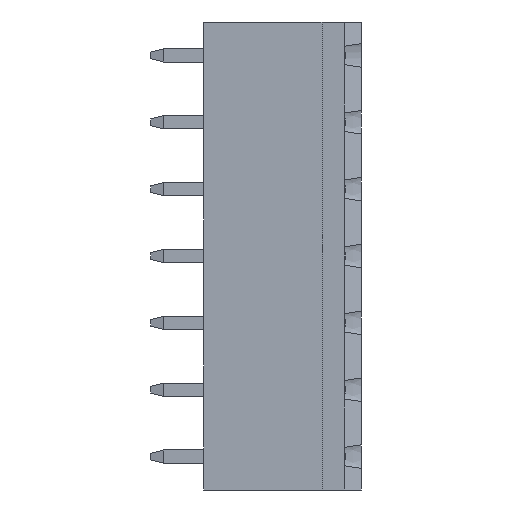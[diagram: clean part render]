
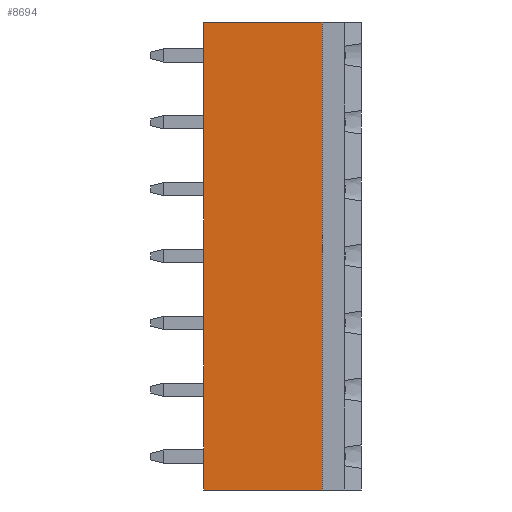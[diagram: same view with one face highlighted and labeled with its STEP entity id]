
A CAD part, left-side view. The second image highlights one B-rep face of the part: STEP entity #8694.
In plain terms, the highlighted planar face has unit normal (-1, 0, 0).
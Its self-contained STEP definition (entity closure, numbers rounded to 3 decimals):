
#216 = VECTOR ( 'NONE', #12035, 1000. ) ;
#615 = DIRECTION ( 'NONE',  ( -1., 0., 0. ) ) ;
#2339 = EDGE_LOOP ( 'NONE', ( #11657, #9553, #17086, #2426 ) ) ;
#2426 = ORIENTED_EDGE ( 'NONE', *, *, #14144, .F. ) ;
#3554 = EDGE_CURVE ( 'NONE', #7549, #17343, #4092, .T. ) ;
#4092 = LINE ( 'NONE', #13574, #17226 ) ;
#6617 = DIRECTION ( 'NONE',  ( 0., 0., -1. ) ) ;
#7475 = PLANE ( 'NONE',  #9626 ) ;
#7490 = CARTESIAN_POINT ( 'NONE',  ( -3.9, 12., 35.56 ) ) ;
#7549 = VERTEX_POINT ( 'NONE', #7490 ) ;
#7626 = VECTOR ( 'NONE', #6617, 1000. ) ;
#7782 = CARTESIAN_POINT ( 'NONE',  ( -3.9, 3., 35.56 ) ) ;
#7785 = LINE ( 'NONE', #11942, #13773 ) ;
#8416 = DIRECTION ( 'NONE',  ( 0., -1., 0. ) ) ;
#8694 = ADVANCED_FACE ( 'NONE', ( #10089 ), #7475, .T. ) ;
#9412 = CARTESIAN_POINT ( 'NONE',  ( -3.9, 3., 35.56 ) ) ;
#9553 = ORIENTED_EDGE ( 'NONE', *, *, #9678, .F. ) ;
#9587 = LINE ( 'NONE', #9412, #7626 ) ;
#9626 = AXIS2_PLACEMENT_3D ( 'NONE', #12986, #615, #11628 ) ;
#9678 = EDGE_CURVE ( 'NONE', #17343, #13076, #9587, .T. ) ;
#10089 = FACE_OUTER_BOUND ( 'NONE', #2339, .T. ) ;
#10583 = DIRECTION ( 'NONE',  ( 0., 0., 1. ) ) ;
#11628 = DIRECTION ( 'NONE',  ( 0., 0., 1. ) ) ;
#11657 = ORIENTED_EDGE ( 'NONE', *, *, #14134, .T. ) ;
#11942 = CARTESIAN_POINT ( 'NONE',  ( -3.9, 12., 0. ) ) ;
#12035 = DIRECTION ( 'NONE',  ( 0., -1., 0. ) ) ;
#12986 = CARTESIAN_POINT ( 'NONE',  ( -3.9, 12., 0. ) ) ;
#13076 = VERTEX_POINT ( 'NONE', #13650 ) ;
#13574 = CARTESIAN_POINT ( 'NONE',  ( -3.9, 12., 35.56 ) ) ;
#13650 = CARTESIAN_POINT ( 'NONE',  ( -3.9, 3., 0. ) ) ;
#13773 = VECTOR ( 'NONE', #10583, 1000. ) ;
#14134 = EDGE_CURVE ( 'NONE', #16441, #13076, #16023, .T. ) ;
#14144 = EDGE_CURVE ( 'NONE', #16441, #7549, #7785, .T. ) ;
#15285 = CARTESIAN_POINT ( 'NONE',  ( -3.9, 12., 0. ) ) ;
#16023 = LINE ( 'NONE', #17728, #216 ) ;
#16441 = VERTEX_POINT ( 'NONE', #15285 ) ;
#17086 = ORIENTED_EDGE ( 'NONE', *, *, #3554, .F. ) ;
#17226 = VECTOR ( 'NONE', #8416, 1000. ) ;
#17343 = VERTEX_POINT ( 'NONE', #7782 ) ;
#17728 = CARTESIAN_POINT ( 'NONE',  ( -3.9, 12., 0. ) ) ;
